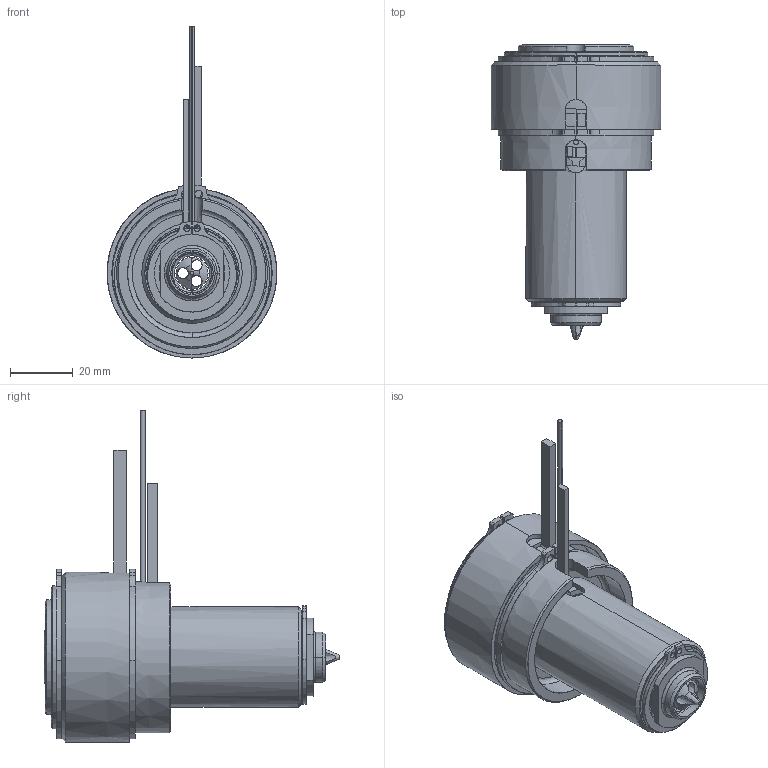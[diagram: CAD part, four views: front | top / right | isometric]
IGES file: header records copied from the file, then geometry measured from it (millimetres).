
Start section: SolidWorks IGES file using analytic representation for surfaces
Global section: file name: C:\Documents and Settings\ws-20\Desktop\TEM\UGEP5501-M-A-0 [Øf-1.18 ØC-13].IGS; native system: SolidWorks 2012; preprocessor: SolidWorks 2012; author: ws-20; date: 120427.081212; units: millimetre
Bounding box: 54 x 94.05 x 105.65 mm (x, y, z)
Surface area: 47579.4 mm2 (no closed solid volume)
Topology: 0 solids, 0 shells, 185 faces, 3691 edges, 3691 vertices
Faces by surface type: revolution 116, bspline 69
